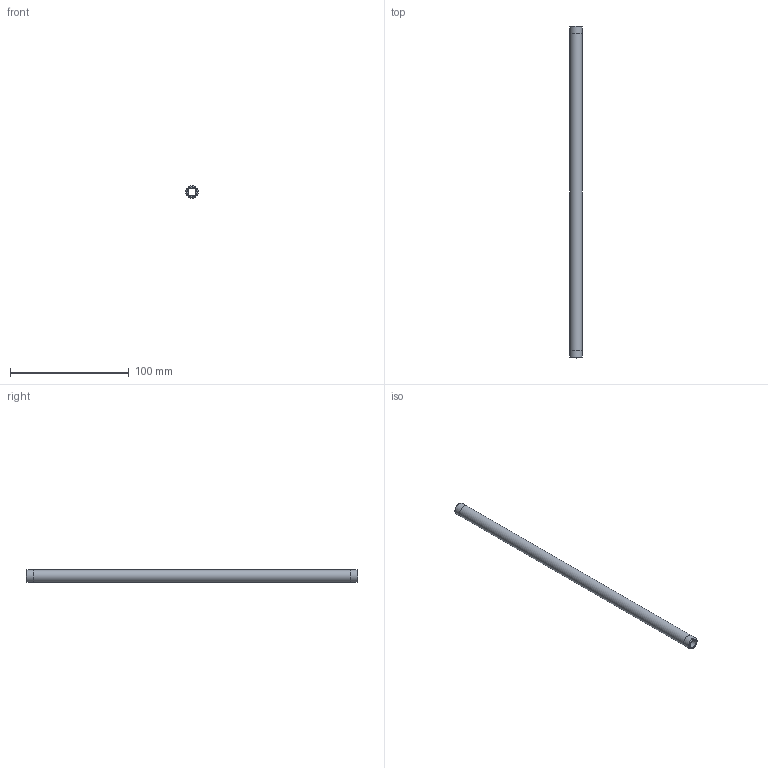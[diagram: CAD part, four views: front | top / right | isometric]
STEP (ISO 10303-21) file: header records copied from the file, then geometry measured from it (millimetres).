
FILE_DESCRIPTION(/* description */ (''),/* implementation_level */ '2;1');
FILE_NAME(/* name */ 'C:/Users/drich/Desktop/SSPN18-11 v1.step',/* time_stamp */ '2020-01-04T13:33:13-06:00',/* author */ (''),/* organization */ (''),/* preprocessor_version */ 'ST-DEVELOPER v18',/* originating_system */ 'Autodesk Translation Framework v8.12.0.6',/* authorisation */ '');
FILE_SCHEMA (('AUTOMOTIVE_DESIGN { 1 0 10303 214 3 1 1 }'));
Length unit declared in the file: inch
Products named in the file (1): SSPN18-11
Bounding box: 10.31 x 279.4 x 10.31 mm (x, y, z)
Volume: 13063.8 mm3; surface area: 15110.6 mm2
Topology: 1 solids, 1 shells, 10 faces, 24 edges, 18 vertices
Faces by surface type: cylinder 4, plane 4, cone 2
Full cylindrical faces by diameter (mm): 6.833 x1, 10.262 x2, 10.312 x1
Entity records: 353 total; most frequent: DIRECTION 64, CARTESIAN_POINT 53, ORIENTED_EDGE 48, AXIS2_PLACEMENT_3D 29, EDGE_CURVE 24, CIRCLE 18, VERTEX_POINT 18, EDGE_LOOP 14
